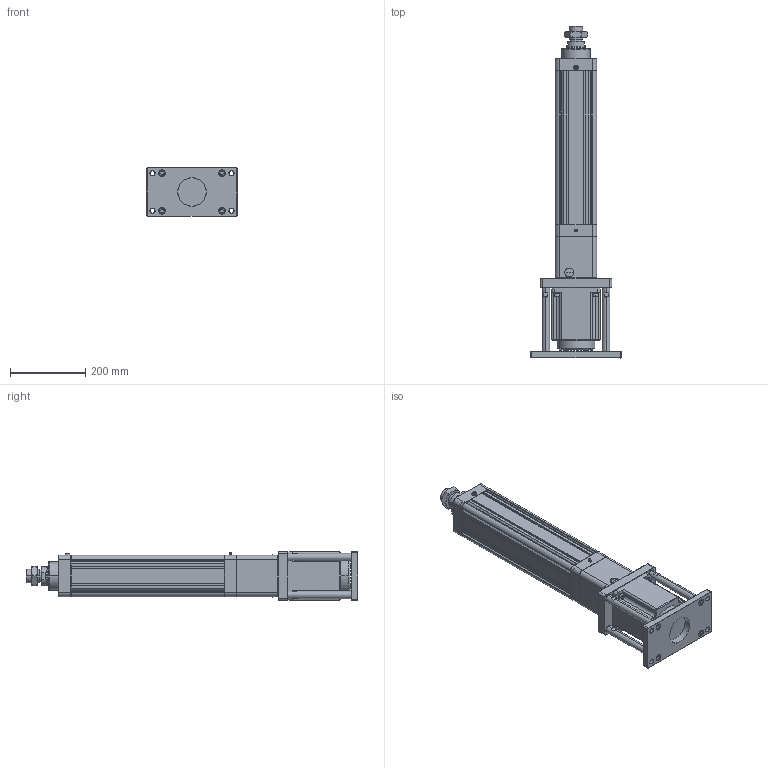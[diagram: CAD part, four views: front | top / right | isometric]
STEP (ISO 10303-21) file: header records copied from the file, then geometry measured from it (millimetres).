
FILE_DESCRIPTION((''),'2;1');
FILE_NAME('HE100-D-P_ASM','2020-04-21T',('ASUS20200'),(''),'CREO PARAMETRIC BY PTC INC, 2014190','CREO PARAMETRIC BY PTC INC, 2014190','');
FILE_SCHEMA(('CONFIG_CONTROL_DESIGN'));
Length unit declared in the file: millimetre
Products named in the file (23): HE100-D-P-001-X1; HE100-D-P-002-X1; HE100-D-P-003-X1; 30305J; JDB506030; SLM-01; YZ-M6X1; HE100-100-D-P-X1_ASM; HE100-D-009-X1; HE100-D-010-X1-130N; M8X20; 130ST-M10010; TD-8; M8X40; SKT-20; HE100-D-P-005-X1; HE100-D-P-004-X1; HE80-D-P-008-X1; LGLM-M10-25; HE100-FB-LG; F-HE100FB; M10X30; HE100-D-P_ASM
Assembly tree (46 placements, depth 3):
  HE100-D-P_ASM
    HE100-100-D-P-X1_ASM
      HE100-D-P-001-X1
      HE100-D-P-002-X1
      HE100-D-P-003-X1
      30305J  x2
      JDB506030
      SLM-01
      YZ-M6X1
    HE100-D-009-X1
    HE100-D-010-X1-130N
    M8X20  x4
    130ST-M10010
    TD-8  x4
    M8X40  x4
    SKT-20  x2
    HE100-D-P-005-X1
    HE100-D-P-004-X1
    HE80-D-P-008-X1
    LGLM-M10-25  x4
    HE100-FB-LG  x4
    F-HE100FB
    M10X30  x8
Bounding box: 240 x 882 x 130 mm (x, y, z)
Volume: 6711654.2 mm3; surface area: 1227761.2 mm2
Topology: 45 solids, 76 shells, 2416 faces, 5562 edges, 3326 vertices
Faces by surface type: plane 836, cone 748, cylinder 684, torus 114, sphere 30, bspline 4
Entity records: 53628 total; most frequent: CARTESIAN_POINT 10031, DIRECTION 9705, ORIENTED_EDGE 8402, EDGE_CURVE 4248, AXIS2_PLACEMENT_3D 3736, VERTEX_POINT 2540, VECTOR 2233, LINE 2233
